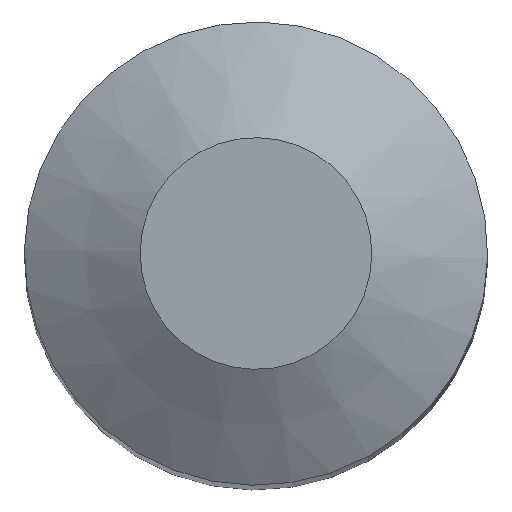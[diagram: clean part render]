
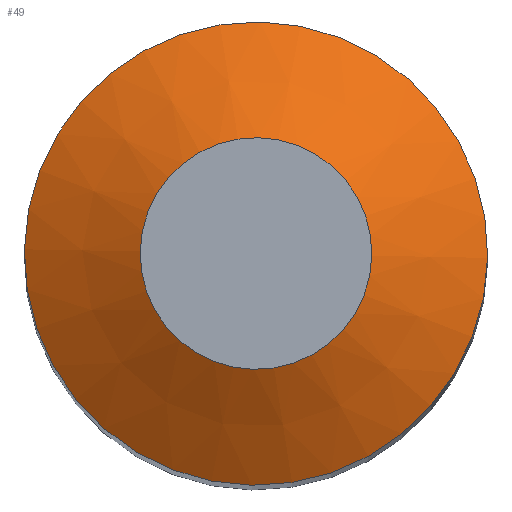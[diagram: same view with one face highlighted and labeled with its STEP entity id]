
A CAD part, top view. The second image highlights one B-rep face of the part: STEP entity #49.
In plain terms, the highlighted conical face has half-angle 60 degrees and reference radius 3 mm.
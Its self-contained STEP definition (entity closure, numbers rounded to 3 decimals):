
#49=ADVANCED_FACE('',(#66,#67),#57,.T.);
#57=CONICAL_SURFACE('',#151,3.,60.);
#66=FACE_BOUND('',#78,.T.);
#67=FACE_BOUND('',#79,.T.);
#78=EDGE_LOOP('',(#92));
#79=EDGE_LOOP('',(#93));
#92=ORIENTED_EDGE('',*,*,#112,.F.);
#93=ORIENTED_EDGE('',*,*,#111,.T.);
#103=VERTEX_POINT('',#207);
#104=VERTEX_POINT('',#210);
#111=EDGE_CURVE('',#103,#103,#118,.T.);
#112=EDGE_CURVE('',#104,#104,#119,.T.);
#118=CIRCLE('',#148,3.);
#119=CIRCLE('',#150,1.5);
#148=AXIS2_PLACEMENT_3D('',#206,#173,#174);
#150=AXIS2_PLACEMENT_3D('',#209,#177,#178);
#151=AXIS2_PLACEMENT_3D('',#211,#179,#180);
#173=DIRECTION('',(0.,0.,1.));
#174=DIRECTION('',(1.,-0.018,0.));
#177=DIRECTION('',(0.,0.,1.));
#178=DIRECTION('',(1.,-0.018,0.));
#179=DIRECTION('',(0.,0.,-1.));
#180=DIRECTION('',(-1.,0.018,0.));
#206=CARTESIAN_POINT('',(0.,0.,-0.866));
#207=CARTESIAN_POINT('',(2.999,-0.055,-0.866));
#209=CARTESIAN_POINT('',(0.,0.,0.));
#210=CARTESIAN_POINT('',(1.5,-0.028,0.));
#211=CARTESIAN_POINT('',(0.,0.,-0.866));
